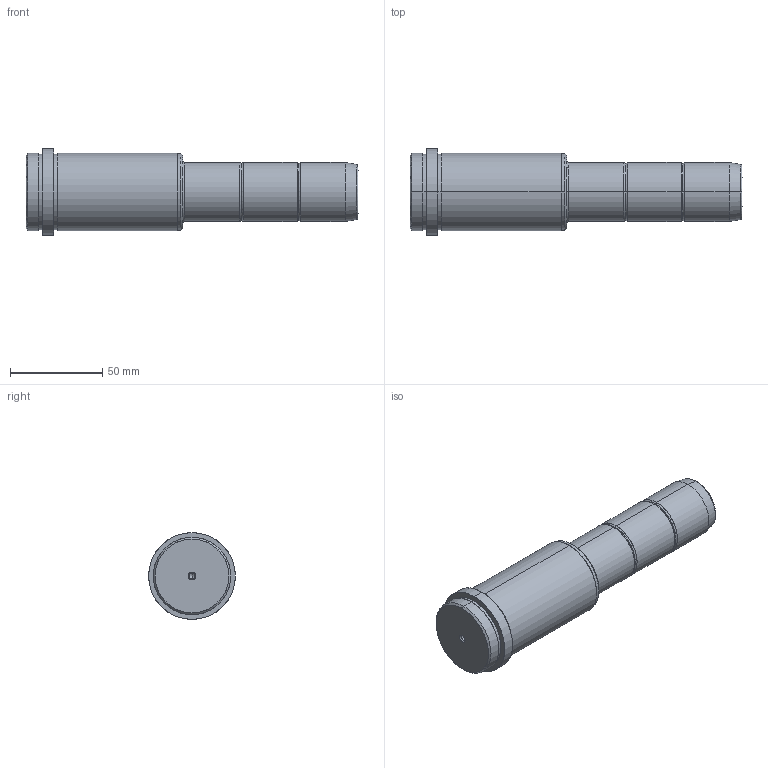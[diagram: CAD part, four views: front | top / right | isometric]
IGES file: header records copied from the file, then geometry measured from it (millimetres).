
Start section: SolidWorks IGES FILE using analytic representation for surfaces
Global section: file name: D:\zzzzz\Delta\D03\32\D03 - 32x76x95.IGS; native system: SolidWorks 2004 by SolidWorks Corporation; preprocessor: Version 5.3; author: Hkn; date: 080327.162238; units: millimetre
Bounding box: 180 x 47 x 47 mm (x, y, z)
Surface area: 24314.1 mm2 (no closed solid volume)
Topology: 0 solids, 0 shells, 56 faces, 1152 edges, 1148 vertices
Faces by surface type: revolution 36, bspline 20
